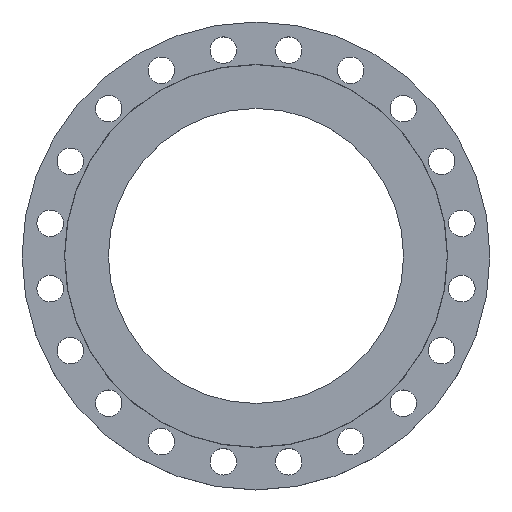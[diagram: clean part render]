
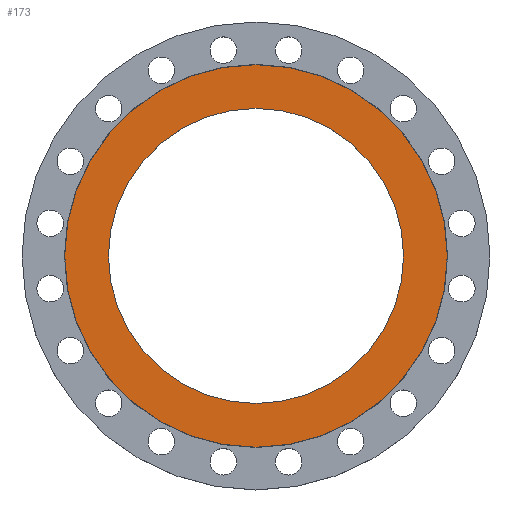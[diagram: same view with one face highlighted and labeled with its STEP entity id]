
A CAD part, top view. The second image highlights one B-rep face of the part: STEP entity #173.
In plain terms, the highlighted planar face has unit normal (0, 0, 1).
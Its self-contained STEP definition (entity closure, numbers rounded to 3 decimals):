
#109 = VERTEX_POINT ( 'NONE', #646 ) ;
#117 = EDGE_CURVE ( 'NONE', #135, #699, #463, .T. ) ;
#135 = VERTEX_POINT ( 'NONE', #1673 ) ;
#167 = CARTESIAN_POINT ( 'NONE',  ( 0., 0., 0. ) ) ;
#173 = ADVANCED_FACE ( 'NONE', ( #1682, #346 ), #975, .T. ) ;
#203 = DIRECTION ( 'NONE',  ( 0., 0., 1. ) ) ;
#205 = ORIENTED_EDGE ( 'NONE', *, *, #775, .F. ) ;
#346 = FACE_OUTER_BOUND ( 'NONE', #759, .T. ) ;
#353 = AXIS2_PLACEMENT_3D ( 'NONE', #1570, #203, #838 ) ;
#366 = CIRCLE ( 'NONE', #1545, 280. ) ;
#463 = CIRCLE ( 'NONE', #779, 216. ) ;
#479 = DIRECTION ( 'NONE',  ( 1., 0., 0. ) ) ;
#533 = CIRCLE ( 'NONE', #1841, 280. ) ;
#594 = DIRECTION ( 'NONE',  ( 0., 0., -1. ) ) ;
#595 = CIRCLE ( 'NONE', #937, 216. ) ;
#626 = EDGE_LOOP ( 'NONE', ( #1125, #1684 ) ) ;
#646 = CARTESIAN_POINT ( 'NONE',  ( 280., 0., 0. ) ) ;
#699 = VERTEX_POINT ( 'NONE', #747 ) ;
#747 = CARTESIAN_POINT ( 'NONE',  ( -216., 0., 0. ) ) ;
#750 = CARTESIAN_POINT ( 'NONE',  ( 0., 0., 0. ) ) ;
#759 = EDGE_LOOP ( 'NONE', ( #205, #1286 ) ) ;
#775 = EDGE_CURVE ( 'NONE', #1326, #109, #366, .T. ) ;
#779 = AXIS2_PLACEMENT_3D ( 'NONE', #1255, #1778, #479 ) ;
#790 = DIRECTION ( 'NONE',  ( 0., 0., -1. ) ) ;
#838 = DIRECTION ( 'NONE',  ( 1., 0., 0. ) ) ;
#937 = AXIS2_PLACEMENT_3D ( 'NONE', #750, #1339, #1852 ) ;
#975 = PLANE ( 'NONE',  #353 ) ;
#1015 = EDGE_CURVE ( 'NONE', #109, #1326, #533, .T. ) ;
#1125 = ORIENTED_EDGE ( 'NONE', *, *, #117, .F. ) ;
#1196 = DIRECTION ( 'NONE',  ( -1., 0., 0. ) ) ;
#1255 = CARTESIAN_POINT ( 'NONE',  ( 0., 0., 0. ) ) ;
#1286 = ORIENTED_EDGE ( 'NONE', *, *, #1015, .F. ) ;
#1326 = VERTEX_POINT ( 'NONE', #1622 ) ;
#1336 = EDGE_CURVE ( 'NONE', #699, #135, #595, .T. ) ;
#1339 = DIRECTION ( 'NONE',  ( 0., 0., 1. ) ) ;
#1370 = DIRECTION ( 'NONE',  ( -1., 0., 0. ) ) ;
#1545 = AXIS2_PLACEMENT_3D ( 'NONE', #167, #790, #1370 ) ;
#1570 = CARTESIAN_POINT ( 'NONE',  ( 0., 0., 0. ) ) ;
#1622 = CARTESIAN_POINT ( 'NONE',  ( -280., 0., 0. ) ) ;
#1673 = CARTESIAN_POINT ( 'NONE',  ( 216., 0., 0. ) ) ;
#1682 = FACE_BOUND ( 'NONE', #626, .T. ) ;
#1684 = ORIENTED_EDGE ( 'NONE', *, *, #1336, .F. ) ;
#1778 = DIRECTION ( 'NONE',  ( 0., 0., 1. ) ) ;
#1841 = AXIS2_PLACEMENT_3D ( 'NONE', #1854, #594, #1196 ) ;
#1852 = DIRECTION ( 'NONE',  ( 1., 0., 0. ) ) ;
#1854 = CARTESIAN_POINT ( 'NONE',  ( 0., 0., 0. ) ) ;
